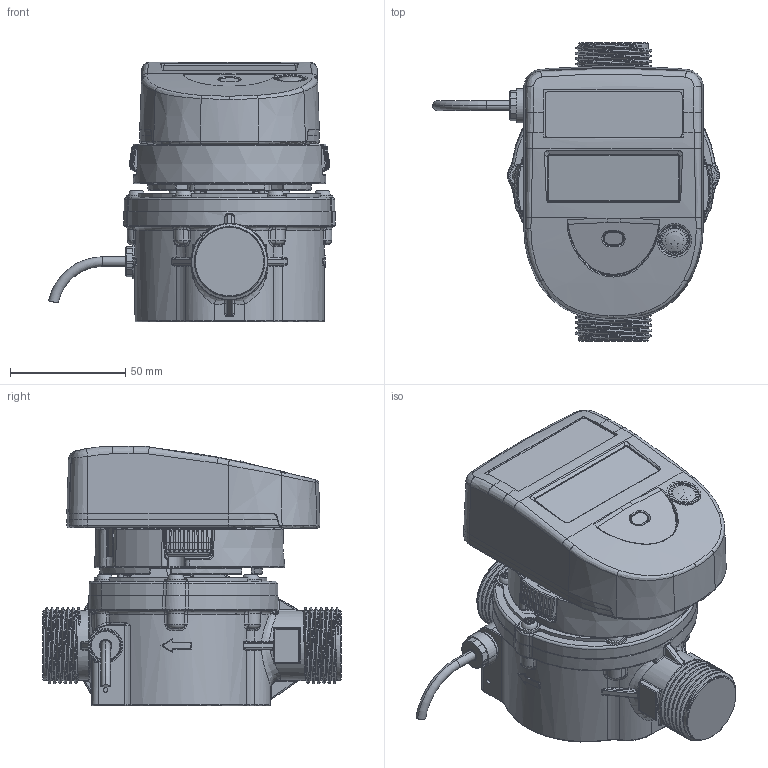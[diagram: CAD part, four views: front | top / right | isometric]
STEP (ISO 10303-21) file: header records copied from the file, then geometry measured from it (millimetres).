
FILE_DESCRIPTION(/* description */ ('Unknown'),/* implementation_level */ '2;1');
FILE_NAME(/* name */ '0789A134_BasePPA_qp2.5_130mm_rempli',/* time_stamp */ '2022-09-22T09:44:18+02:00',/* author */ ('Unknown'),/* organization */ ('Unknown'),/* preprocessor_version */ 'ST-DEVELOPER v18.102',/* originating_system */ 'Solid Edge',/* authorisation */ 'Unknown');
FILE_SCHEMA (('AUTOMOTIVE_DESIGN {1 0 10303 214 3 1 1}'));
Length unit declared in the file: millimetre
Products named in the file (21): 0789A134_BasePPA_qp2.5_130mm_rempli; R_0739-1001 Assembly Calculator-oa5; R_0739P023; R_0739P150_monté; R_0739P022; R_0739P025; R_R_0739P026; R_0739P100-749P100; R_0739P020; R_R_0739P021; R_0749P070; R_0749P072; VIS00001; 0789P201_rempli; 00759783_vente_sonde Ø5; 00759783_AllCATPart_4_0; 00759783_AllCATPart_5_0; 00759783_AllCATPart_7_0; Flat rubber ringSLDPRT_0; cable ﾘ4.2; 0789P207_remplie
Assembly tree (28 placements, depth 3):
  0789A134_BasePPA_qp2.5_130mm_rempli
    R_0739-1001 Assembly Calculator-oa5
      R_0739P023
      R_0739P150_monté
      R_0739P022
      R_0739P025
      R_R_0739P026
      R_0739P100-749P100
      R_0739P020
      R_R_0739P021
    R_0749P070
    R_0749P072  x4
    VIS00001  x6
    0789P201_rempli
    00759783_vente_sonde Ø5
      00759783_AllCATPart_4_0
      00759783_AllCATPart_5_0
      00759783_AllCATPart_7_0
      Flat rubber ringSLDPRT_0
      cable ﾘ4.2
    0789P207_remplie
Bounding box: 124.57 x 129.5 x 112.91 mm (x, y, z)
Volume: 678253.9 mm3; surface area: 155222.3 mm2
Topology: 26 solids, 44 shells, 2693 faces, 6620 edges, 3971 vertices
Faces by surface type: cylinder 773, plane 684, bspline 525, torus 365, cone 247, sphere 99
Full cylindrical faces by diameter (mm): 2 x1, 2.05 x3, 2.1 x1, 2.5 x4, 2.6 x3, 2.7 x4, 3.5 x1, 4 x6, 4.2 x6, 4.5 x6, 5 x4, 6 x2, 7.4 x1, 8.5 x1, 8.9 x1, 9 x6, 10 x4, 11.7 x1, 12 x1, 30.29 x4, 63.6 x1
Entity records: 98293 total; most frequent: CARTESIAN_POINT 36639, ORIENTED_EDGE 11494, DIRECTION 10379, EDGE_CURVE 5747, AXIS2_PLACEMENT_3D 4395, VERTEX_POINT 3550, FACE_BOUND 2679, EDGE_LOOP 2671
